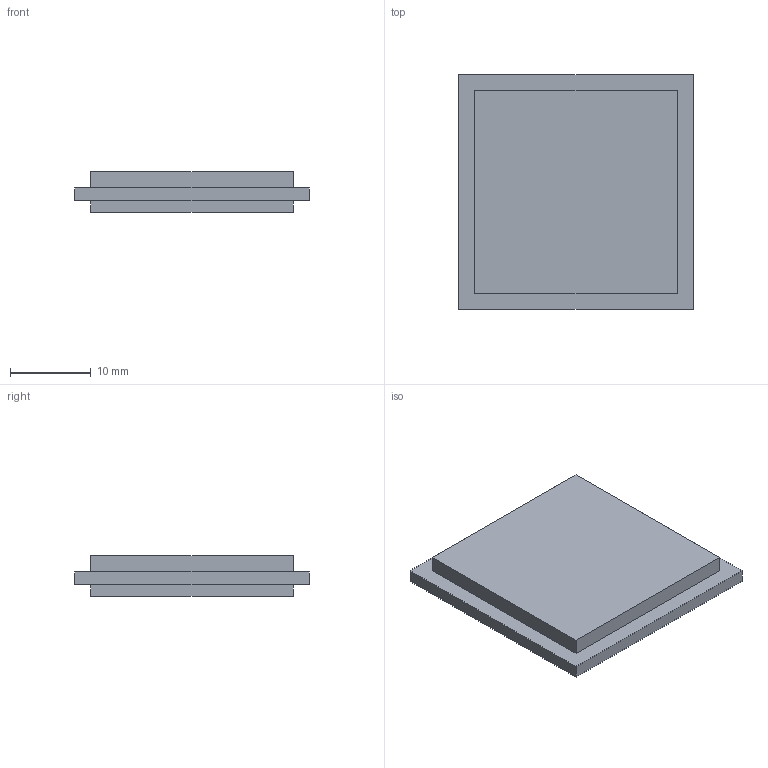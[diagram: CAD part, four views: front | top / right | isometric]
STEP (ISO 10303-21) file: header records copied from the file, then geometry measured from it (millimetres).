
FILE_DESCRIPTION(('RunCam_Split4_placeholder placeholder'),'2;1');
FILE_NAME('RunCam_Split4_placeholder','2026-10-05T01:59:07',(''),(''),'step_boxes.py','','');
FILE_SCHEMA(('AUTOMOTIVE_DESIGN { 1 0 10303 214 1 1 1 1 }'));
Length unit declared in the file: millimetre
Products named in the file (1): RunCam_Split4_placeholder
Bounding box: 29 x 29 x 5 mm (x, y, z)
Volume: 3470.6 mm3; surface area: 4707.6 mm2
Topology: 3 solids, 3 shells, 18 faces, 36 edges, 24 vertices
Faces by surface type: plane 18
Entity records: 466 total; most frequent: CARTESIAN_POINT 79, DIRECTION 74, ORIENTED_EDGE 72, VECTOR 36, LINE 36, EDGE_CURVE 36, VERTEX_POINT 24, AXIS2_PLACEMENT_3D 19
